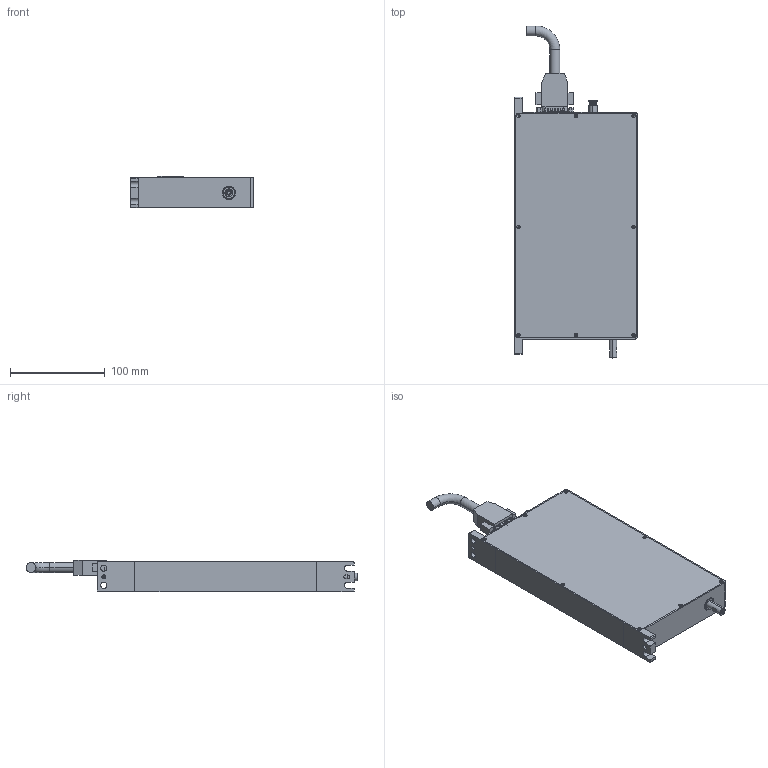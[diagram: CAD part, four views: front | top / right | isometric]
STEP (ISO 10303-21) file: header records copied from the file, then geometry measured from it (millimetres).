
FILE_DESCRIPTION((''),'2;1');
FILE_NAME('ZRADS8-32-S50-EC_ASM','2024-03-21T',('12562'),(''),'PRO/ENGINEER BY PARAMETRIC TECHNOLOGY CORPORATION, 2014320','PRO/ENGINEER BY PARAMETRIC TECHNOLOGY CORPORATION, 2014320','');
FILE_SCHEMA(('AUTOMOTIVE_DESIGN { 1 0 10303 214 1 1 1 1 }'));
Length unit declared in the file: millimetre
Products named in the file (12): POC4M5-SZ; ZRADS8-32-S50-012; ZRADS8-32-S50-006; PRODUCT_65886; ZRADS8-32-S50-003; ZRADS8-32-S50-013; ZRADS8-32-S50-001; UDB26-PCB; ZRADS6-20-PCB2-DB26_____ASM; ASM0001_ASM; DB26; ZRADS8-32-S50-EC_ASM
Assembly tree (12 placements, depth 4):
  ZRADS8-32-S50-EC_ASM
    ASM0001_ASM
      POC4M5-SZ
      ZRADS8-32-S50-012
      ZRADS8-32-S50-006
      PRODUCT_65886  x2
      ZRADS8-32-S50-003
      ZRADS8-32-S50-013
      ZRADS8-32-S50-001
      ZRADS6-20-PCB2-DB26_____ASM
        UDB26-PCB
    DB26
Bounding box: 130 x 351.25 x 33.77 mm (x, y, z)
Volume: 1037696.3 mm3; surface area: 171376.9 mm2
Topology: 10 solids, 11 shells, 1144 faces, 2696 edges, 1595 vertices
Faces by surface type: cylinder 552, plane 265, torus 193, sphere 56, cone 50, bspline 20, extrusion 8
Entity records: 41778 total; most frequent: CARTESIAN_POINT 7708, DIRECTION 6149, ORIENTED_EDGE 5152, EDGE_CURVE 2578, AXIS2_PLACEMENT_3D 2526, PRESENTATION_STYLE_ASSIGNMENT 2286, STYLED_ITEM 2286, CURVE_STYLE 2278
